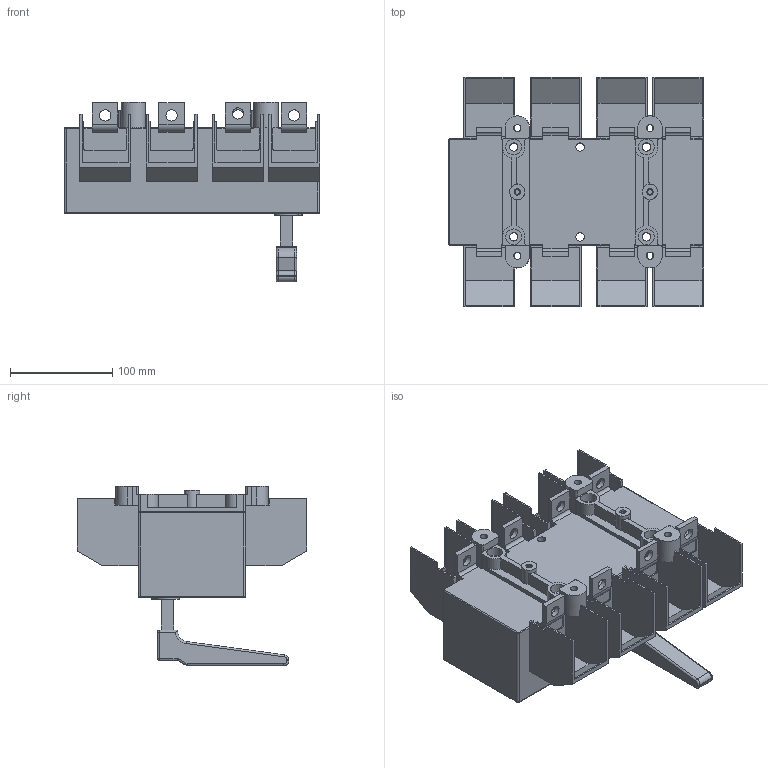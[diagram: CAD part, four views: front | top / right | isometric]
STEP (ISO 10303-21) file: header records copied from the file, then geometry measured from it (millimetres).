
FILE_DESCRIPTION(/* description */ (''),/* implementation_level */ '2;1');
FILE_NAME(/* name */ 'RA630 P3 NC-R z oslona zaciskow.stp',/* time_stamp */ '2021-08-19T08:38:32+02:00',/* author */ (''),/* organization */ (''),/* preprocessor_version */ 'ST-DEVELOPER v18.1',/* originating_system */ 'SIEMENS PLM Software NX 1965',/* authorisation */ '');
FILE_SCHEMA (('AUTOMOTIVE_DESIGN { 1 0 10303 214 3 1 1 1 }'));
Length unit declared in the file: millimetre
Products named in the file (1): RA630 P3 NC-R z oslona zaciskow
Bounding box: 250 x 225 x 176 mm (x, y, z)
Volume: 2485069.7 mm3; surface area: 345503.9 mm2
Topology: 1 solids, 1 shells, 504 faces, 1449 edges, 939 vertices
Faces by surface type: plane 337, cylinder 145, bspline 8, torus 8, sphere 6
Full cylindrical faces by diameter (mm): 4.8 x2, 6.2 x2, 7 x4, 8.2 x6, 11 x8, 14 x4, 15 x2, 15.5 x4
Entity records: 16383 total; most frequent: CARTESIAN_POINT 3001, ORIENTED_EDGE 2806, DIRECTION 2735, EDGE_CURVE 1403, LINE 1057, VECTOR 1057, VERTEX_POINT 928, AXIS2_PLACEMENT_3D 839
